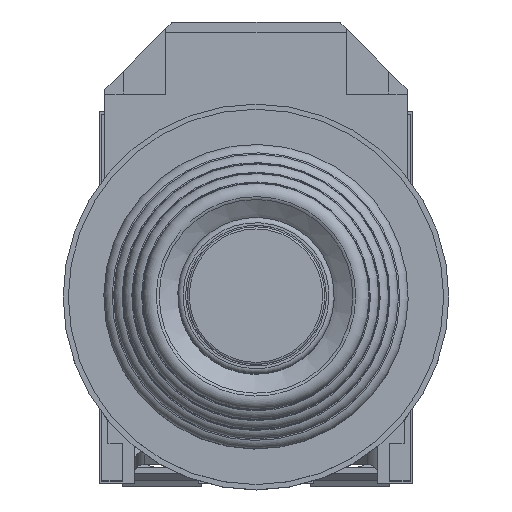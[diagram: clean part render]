
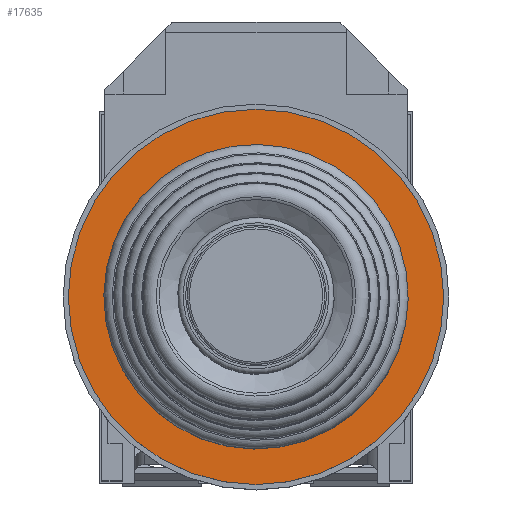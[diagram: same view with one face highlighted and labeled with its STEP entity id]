
A CAD part, top view. The second image highlights one B-rep face of the part: STEP entity #17635.
In plain terms, the highlighted planar face has unit normal (0, 0, 1).
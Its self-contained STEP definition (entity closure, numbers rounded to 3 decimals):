
#17608=CARTESIAN_POINT('',(0.,15.5,8.9));
#17609=DIRECTION('',(0.0,0.0,1.0));
#17610=DIRECTION('',(1.0,0.0,0.0));
#17611=AXIS2_PLACEMENT_3D('',#17608,#17609,#17610);
#17612=PLANE('',#17611);
#17613=CARTESIAN_POINT('',(0.,18.0,8.9));
#17614=VERTEX_POINT('',#17613);
#17615=CARTESIAN_POINT('',(0.,0.,8.9));
#17616=DIRECTION('',(0.0,0.0,-1.0));
#17617=DIRECTION('',(0.0,1.0,0.0));
#17618=AXIS2_PLACEMENT_3D('',#17615,#17616,#17617);
#17619=CIRCLE('',#17618,18.0);
#17620=EDGE_CURVE('',#17614,#17614,#17619,.T.);
#17621=ORIENTED_EDGE('',*,*,#17620,.F.);
#17622=EDGE_LOOP('',(#17621));
#17623=FACE_OUTER_BOUND('',#17622,.T.);
#17624=CARTESIAN_POINT('',(-4.768,13.8,8.9));
#17625=VERTEX_POINT('',#17624);
#17626=CARTESIAN_POINT('',(0.,0.,8.9));
#17627=DIRECTION('',(0.,0.,-1.));
#17628=DIRECTION('',(-0.327,0.945,0.));
#17629=AXIS2_PLACEMENT_3D('',#17626,#17627,#17628);
#17630=CIRCLE('',#17629,14.6);
#17631=EDGE_CURVE('',#17625,#17625,#17630,.T.);
#17632=ORIENTED_EDGE('',*,*,#17631,.T.);
#17633=EDGE_LOOP('',(#17632));
#17634=FACE_BOUND('',#17633,.T.);
#17635=ADVANCED_FACE('',(#17623,#17634),#17612,.T.);
